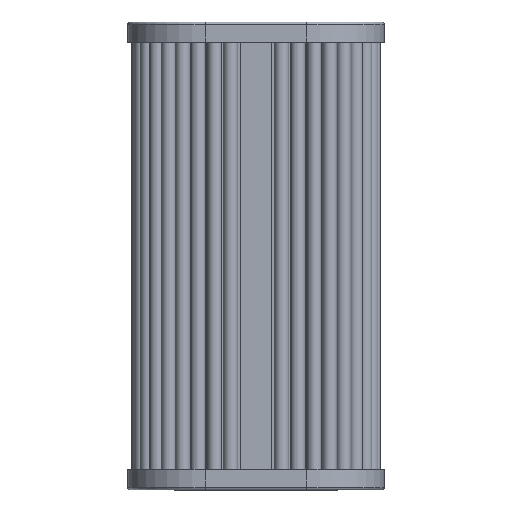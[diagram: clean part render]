
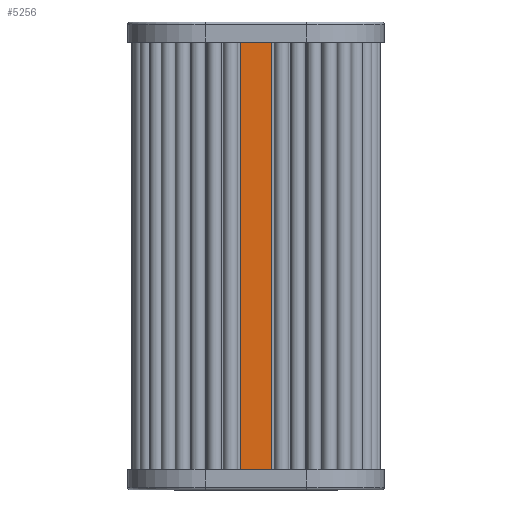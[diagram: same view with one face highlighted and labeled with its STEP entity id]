
A CAD part, top view. The second image highlights one B-rep face of the part: STEP entity #5256.
In plain terms, the highlighted planar face has unit normal (0, 0, 1) as drawn and (0, -1, 0) by its records, which use the part's own axes.
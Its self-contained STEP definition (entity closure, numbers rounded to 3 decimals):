
#566 = ORIENTED_EDGE ( 'NONE', *, *, #14219, .F. ) ;
#640 = CARTESIAN_POINT ( 'NONE',  ( -10., -55.5, 0. ) ) ;
#849 = CARTESIAN_POINT ( 'NONE',  ( 10., -55.5, 293. ) ) ;
#1065 = CARTESIAN_POINT ( 'NONE',  ( -10., -55.5, 293. ) ) ;
#1262 = EDGE_CURVE ( 'NONE', #3606, #11907, #7478, .T. ) ;
#1621 = DIRECTION ( 'NONE',  ( 0., 1., 0. ) ) ;
#1748 = DIRECTION ( 'NONE',  ( 0., 0., -1. ) ) ;
#2241 = CARTESIAN_POINT ( 'NONE',  ( 10., -55.5, 293. ) ) ;
#2489 = CARTESIAN_POINT ( 'NONE',  ( -10., -55.5, 293. ) ) ;
#3423 = AXIS2_PLACEMENT_3D ( 'NONE', #12647, #1621, #6520 ) ;
#3606 = VERTEX_POINT ( 'NONE', #640 ) ;
#3762 = EDGE_CURVE ( 'NONE', #9830, #3606, #9666, .T. ) ;
#3798 = LINE ( 'NONE', #13895, #15900 ) ;
#3799 = CARTESIAN_POINT ( 'NONE',  ( -10., -55.5, 0. ) ) ;
#4682 = VERTEX_POINT ( 'NONE', #2241 ) ;
#5256 = ADVANCED_FACE ( 'NONE', ( #8948 ), #7734, .F. ) ;
#6399 = EDGE_CURVE ( 'NONE', #4682, #11907, #7929, .T. ) ;
#6520 = DIRECTION ( 'NONE',  ( 0., 0., 1. ) ) ;
#6566 = DIRECTION ( 'NONE',  ( 1., 0., 0. ) ) ;
#7416 = ORIENTED_EDGE ( 'NONE', *, *, #6399, .F. ) ;
#7478 = LINE ( 'NONE', #3799, #12952 ) ;
#7734 = PLANE ( 'NONE',  #3423 ) ;
#7929 = LINE ( 'NONE', #849, #11978 ) ;
#8057 = CARTESIAN_POINT ( 'NONE',  ( 10., -55.5, 0. ) ) ;
#8948 = FACE_OUTER_BOUND ( 'NONE', #12881, .T. ) ;
#9666 = LINE ( 'NONE', #1065, #15710 ) ;
#9830 = VERTEX_POINT ( 'NONE', #2489 ) ;
#11317 = DIRECTION ( 'NONE',  ( 1., 0., 0. ) ) ;
#11798 = ORIENTED_EDGE ( 'NONE', *, *, #1262, .T. ) ;
#11907 = VERTEX_POINT ( 'NONE', #8057 ) ;
#11978 = VECTOR ( 'NONE', #1748, 1000. ) ;
#12034 = ORIENTED_EDGE ( 'NONE', *, *, #3762, .T. ) ;
#12647 = CARTESIAN_POINT ( 'NONE',  ( -10., -55.5, 293. ) ) ;
#12881 = EDGE_LOOP ( 'NONE', ( #11798, #7416, #566, #12034 ) ) ;
#12952 = VECTOR ( 'NONE', #11317, 1000. ) ;
#13895 = CARTESIAN_POINT ( 'NONE',  ( -10., -55.5, 293. ) ) ;
#14219 = EDGE_CURVE ( 'NONE', #9830, #4682, #3798, .T. ) ;
#14425 = DIRECTION ( 'NONE',  ( 0., 0., -1. ) ) ;
#15710 = VECTOR ( 'NONE', #14425, 1000. ) ;
#15900 = VECTOR ( 'NONE', #6566, 1000. ) ;
